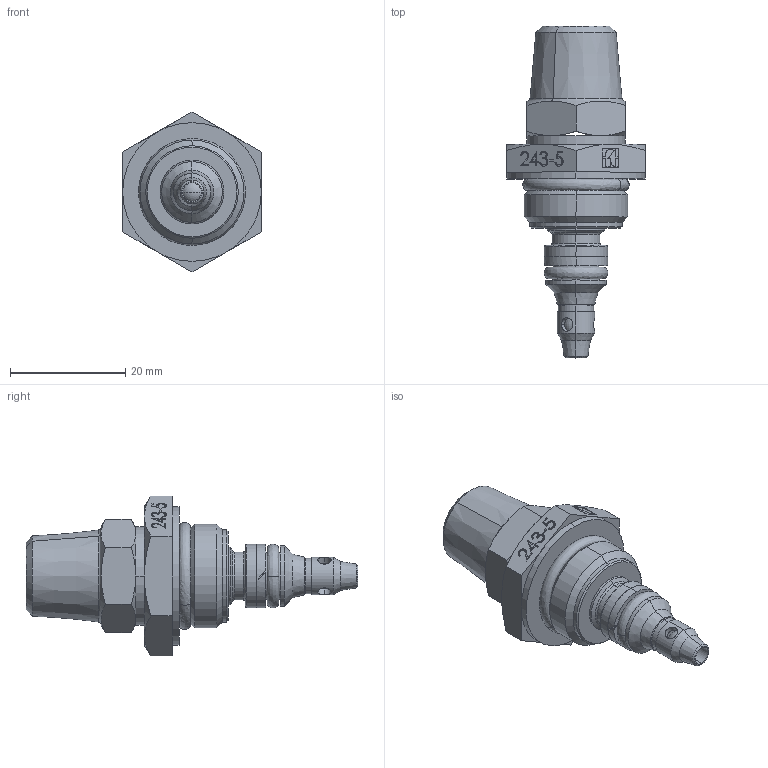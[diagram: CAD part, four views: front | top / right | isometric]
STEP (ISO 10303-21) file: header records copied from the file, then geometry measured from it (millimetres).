
FILE_DESCRIPTION (( 'STEP AP214' ), '1' );
FILE_NAME ('2243-5-38sf.STEP', '2014-03-13T21:32:41', ( '' ), ( '' ), 'SwSTEP 2.0', 'SolidWorks 2012', '' );
FILE_SCHEMA (( 'AUTOMOTIVE_DESIGN' ));
Length unit declared in the file: millimetre
Products named in the file (1): 2243-5-38sf
Bounding box: 24 x 57.5 x 27.71 mm (x, y, z)
Surface area: 4501.3 mm2 (no closed solid volume)
Topology: 0 solids, 9 shells, 238 faces, 647 edges, 413 vertices
Faces by surface type: plane 84, bspline 64, cylinder 39, cone 39, torus 12
Entity records: 14783 total; most frequent: CARTESIAN_POINT 6659, ORIENTED_EDGE 1178, DIRECTION 960, EDGE_CURVE 643, VERTEX_POINT 413, AXIS2_PLACEMENT_3D 322, LINE 316, VECTOR 316
